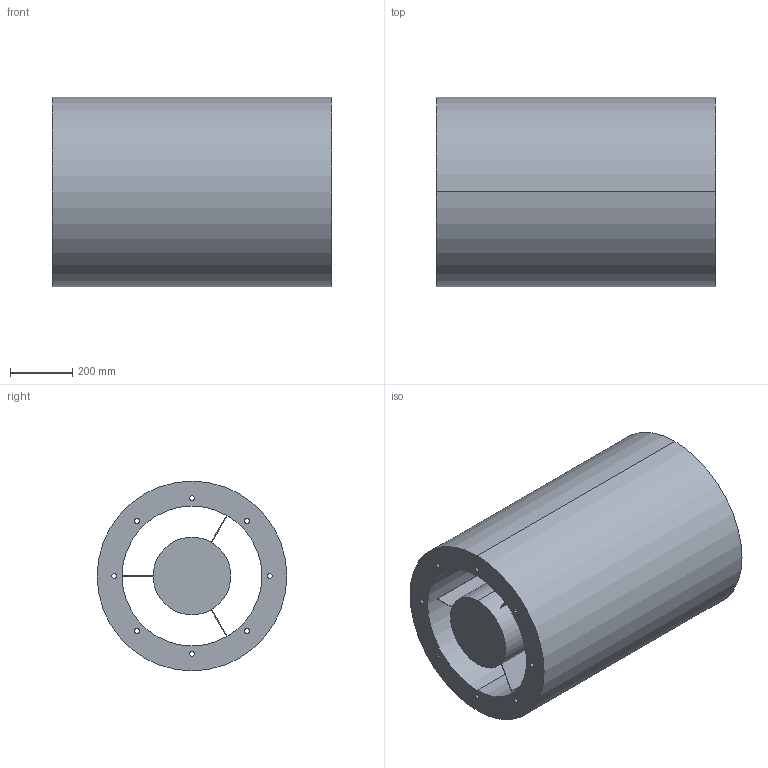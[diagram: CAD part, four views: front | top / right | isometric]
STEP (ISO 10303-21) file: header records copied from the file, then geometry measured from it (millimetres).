
FILE_DESCRIPTION(('STEP AP214'),'1');
FILE_NAME('accessory_5211813800.stp','2017-10-09T11:36:56',('TraceParts'),('TraceParts S.A.'),'Spatial InterOp 3D',' ',' ');
FILE_SCHEMA(('automotive_design'));
Length unit declared in the file: millimetre
Products named in the file (1): accessory_5211813800
Bounding box: 900 x 610 x 610 mm (x, y, z)
Volume: 158649182.1 mm3; surface area: 4744825.9 mm2
Topology: 1 solids, 1 shells, 40 faces, 107 edges, 71 vertices
Faces by surface type: cylinder 22, plane 16, torus 2
Entity records: 1664 total; most frequent: DIRECTION 250, CARTESIAN_POINT 219, ORIENTED_EDGE 214, EDGE_CURVE 107, AXIS2_PLACEMENT_3D 102, VERTEX_POINT 71, EDGE_LOOP 64, CIRCLE 61
